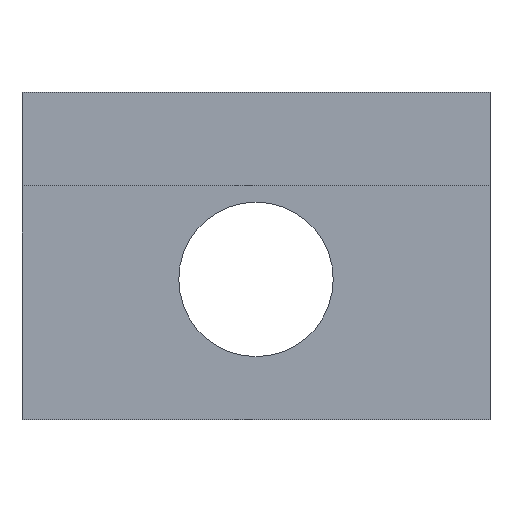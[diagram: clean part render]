
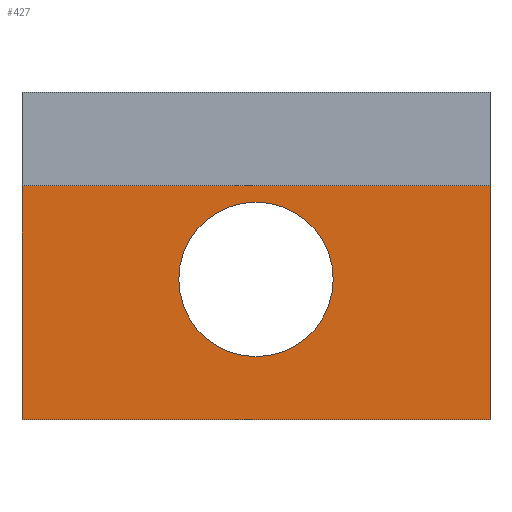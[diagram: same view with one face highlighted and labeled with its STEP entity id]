
A CAD part, front view. The second image highlights one B-rep face of the part: STEP entity #427.
In plain terms, the highlighted planar face has unit normal (0, -1, 0).
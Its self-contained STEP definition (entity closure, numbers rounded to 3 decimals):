
#32 = PLANE('',#33);
#33 = AXIS2_PLACEMENT_3D('',#34,#35,#36);
#34 = CARTESIAN_POINT('',(164.7,-137.883,-4.5));
#35 = DIRECTION('',(1.,0.,-0.));
#36 = DIRECTION('',(0.,0.,1.));
#85 = VERTEX_POINT('',#86);
#86 = CARTESIAN_POINT('',(164.7,-132.483,-4.5));
#100 = PLANE('',#101);
#101 = AXIS2_PLACEMENT_3D('',#102,#103,#104);
#102 = CARTESIAN_POINT('',(164.7,-137.883,-4.5));
#103 = DIRECTION('',(0.,0.,1.));
#104 = DIRECTION('',(1.,0.,-0.));
#112 = EDGE_CURVE('',#113,#85,#115,.T.);
#113 = VERTEX_POINT('',#114);
#114 = CARTESIAN_POINT('',(164.7,-132.483,-9.5));
#115 = SURFACE_CURVE('',#116,(#120,#127),.PCURVE_S1.);
#116 = LINE('',#117,#118);
#117 = CARTESIAN_POINT('',(164.7,-132.483,-9.5));
#118 = VECTOR('',#119,1.);
#119 = DIRECTION('',(0.,0.,1.));
#120 = PCURVE('',#32,#121);
#121 = DEFINITIONAL_REPRESENTATION('',(#122),#126);
#122 = LINE('',#123,#124);
#123 = CARTESIAN_POINT('',(-5.,-5.4));
#124 = VECTOR('',#125,1.);
#125 = DIRECTION('',(1.,0.));
#126 = ( GEOMETRIC_REPRESENTATION_CONTEXT(2) 
PARAMETRIC_REPRESENTATION_CONTEXT() REPRESENTATION_CONTEXT('2D SPACE',''
  ) );
#127 = PCURVE('',#128,#133);
#128 = PLANE('',#129);
#129 = AXIS2_PLACEMENT_3D('',#130,#131,#132);
#130 = CARTESIAN_POINT('',(164.7,-132.483,-9.5));
#131 = DIRECTION('',(-0.,1.,0.));
#132 = DIRECTION('',(0.,0.,1.));
#133 = DEFINITIONAL_REPRESENTATION('',(#134),#138);
#134 = LINE('',#135,#136);
#135 = CARTESIAN_POINT('',(0.,0.));
#136 = VECTOR('',#137,1.);
#137 = DIRECTION('',(1.,0.));
#138 = ( GEOMETRIC_REPRESENTATION_CONTEXT(2) 
PARAMETRIC_REPRESENTATION_CONTEXT() REPRESENTATION_CONTEXT('2D SPACE',''
  ) );
#156 = PLANE('',#157);
#157 = AXIS2_PLACEMENT_3D('',#158,#159,#160);
#158 = CARTESIAN_POINT('',(164.7,-132.483,-9.5));
#159 = DIRECTION('',(0.,0.,1.));
#160 = DIRECTION('',(1.,0.,-0.));
#237 = PLANE('',#238);
#238 = AXIS2_PLACEMENT_3D('',#239,#240,#241);
#239 = CARTESIAN_POINT('',(174.7,-137.883,-4.5));
#240 = DIRECTION('',(1.,0.,-0.));
#241 = DIRECTION('',(0.,0.,1.));
#356 = VERTEX_POINT('',#357);
#357 = CARTESIAN_POINT('',(174.7,-132.483,-4.5));
#378 = EDGE_CURVE('',#356,#85,#379,.T.);
#379 = SURFACE_CURVE('',#380,(#384,#390),.PCURVE_S1.);
#380 = LINE('',#381,#382);
#381 = CARTESIAN_POINT('',(164.7,-132.483,-4.5));
#382 = VECTOR('',#383,1.);
#383 = DIRECTION('',(-1.,-0.,0.));
#384 = PCURVE('',#100,#385);
#385 = DEFINITIONAL_REPRESENTATION('',(#386),#389);
#386 = B_SPLINE_CURVE_WITH_KNOTS('',1,(#387,#388),.UNSPECIFIED.,.F.,.F.,
  (2,2),(-10.,0.),.PIECEWISE_BEZIER_KNOTS.);
#387 = CARTESIAN_POINT('',(10.,5.4));
#388 = CARTESIAN_POINT('',(0.,5.4));
#389 = ( GEOMETRIC_REPRESENTATION_CONTEXT(2) 
PARAMETRIC_REPRESENTATION_CONTEXT() REPRESENTATION_CONTEXT('2D SPACE',''
  ) );
#390 = PCURVE('',#128,#391);
#391 = DEFINITIONAL_REPRESENTATION('',(#392),#395);
#392 = B_SPLINE_CURVE_WITH_KNOTS('',1,(#393,#394),.UNSPECIFIED.,.F.,.F.,
  (2,2),(-10.,0.),.PIECEWISE_BEZIER_KNOTS.);
#393 = CARTESIAN_POINT('',(5.,10.));
#394 = CARTESIAN_POINT('',(5.,0.));
#395 = ( GEOMETRIC_REPRESENTATION_CONTEXT(2) 
PARAMETRIC_REPRESENTATION_CONTEXT() REPRESENTATION_CONTEXT('2D SPACE',''
  ) );
#427 = ADVANCED_FACE('',(#428,#476),#128,.F.);
#428 = FACE_BOUND('',#429,.F.);
#429 = EDGE_LOOP('',(#430,#453,#474,#475));
#430 = ORIENTED_EDGE('',*,*,#431,.F.);
#431 = EDGE_CURVE('',#432,#356,#434,.T.);
#432 = VERTEX_POINT('',#433);
#433 = CARTESIAN_POINT('',(174.7,-132.483,-9.5));
#434 = SURFACE_CURVE('',#435,(#439,#446),.PCURVE_S1.);
#435 = LINE('',#436,#437);
#436 = CARTESIAN_POINT('',(174.7,-132.483,-9.5));
#437 = VECTOR('',#438,1.);
#438 = DIRECTION('',(0.,0.,1.));
#439 = PCURVE('',#128,#440);
#440 = DEFINITIONAL_REPRESENTATION('',(#441),#445);
#441 = LINE('',#442,#443);
#442 = CARTESIAN_POINT('',(0.,10.));
#443 = VECTOR('',#444,1.);
#444 = DIRECTION('',(1.,0.));
#445 = ( GEOMETRIC_REPRESENTATION_CONTEXT(2) 
PARAMETRIC_REPRESENTATION_CONTEXT() REPRESENTATION_CONTEXT('2D SPACE',''
  ) );
#446 = PCURVE('',#237,#447);
#447 = DEFINITIONAL_REPRESENTATION('',(#448),#452);
#448 = LINE('',#449,#450);
#449 = CARTESIAN_POINT('',(-5.,-5.4));
#450 = VECTOR('',#451,1.);
#451 = DIRECTION('',(1.,0.));
#452 = ( GEOMETRIC_REPRESENTATION_CONTEXT(2) 
PARAMETRIC_REPRESENTATION_CONTEXT() REPRESENTATION_CONTEXT('2D SPACE',''
  ) );
#453 = ORIENTED_EDGE('',*,*,#454,.F.);
#454 = EDGE_CURVE('',#113,#432,#455,.T.);
#455 = SURFACE_CURVE('',#456,(#460,#467),.PCURVE_S1.);
#456 = LINE('',#457,#458);
#457 = CARTESIAN_POINT('',(164.7,-132.483,-9.5));
#458 = VECTOR('',#459,1.);
#459 = DIRECTION('',(1.,0.,-0.));
#460 = PCURVE('',#128,#461);
#461 = DEFINITIONAL_REPRESENTATION('',(#462),#466);
#462 = LINE('',#463,#464);
#463 = CARTESIAN_POINT('',(0.,0.));
#464 = VECTOR('',#465,1.);
#465 = DIRECTION('',(0.,1.));
#466 = ( GEOMETRIC_REPRESENTATION_CONTEXT(2) 
PARAMETRIC_REPRESENTATION_CONTEXT() REPRESENTATION_CONTEXT('2D SPACE',''
  ) );
#467 = PCURVE('',#156,#468);
#468 = DEFINITIONAL_REPRESENTATION('',(#469),#473);
#469 = LINE('',#470,#471);
#470 = CARTESIAN_POINT('',(0.,0.));
#471 = VECTOR('',#472,1.);
#472 = DIRECTION('',(1.,0.));
#473 = ( GEOMETRIC_REPRESENTATION_CONTEXT(2) 
PARAMETRIC_REPRESENTATION_CONTEXT() REPRESENTATION_CONTEXT('2D SPACE',''
  ) );
#474 = ORIENTED_EDGE('',*,*,#112,.T.);
#475 = ORIENTED_EDGE('',*,*,#378,.F.);
#476 = FACE_BOUND('',#477,.F.);
#477 = EDGE_LOOP('',(#478));
#478 = ORIENTED_EDGE('',*,*,#479,.T.);
#479 = EDGE_CURVE('',#480,#480,#482,.T.);
#480 = VERTEX_POINT('',#481);
#481 = CARTESIAN_POINT('',(171.35,-132.483,-6.5));
#482 = SURFACE_CURVE('',#483,(#488,#499),.PCURVE_S1.);
#483 = CIRCLE('',#484,1.65);
#484 = AXIS2_PLACEMENT_3D('',#485,#486,#487);
#485 = CARTESIAN_POINT('',(169.7,-132.483,-6.5));
#486 = DIRECTION('',(0.,-1.,0.));
#487 = DIRECTION('',(1.,0.,0.));
#488 = PCURVE('',#128,#489);
#489 = DEFINITIONAL_REPRESENTATION('',(#490),#498);
#490 = ( BOUNDED_CURVE() B_SPLINE_CURVE(2,(#491,#492,#493,#494,#495,#496
,#497),.UNSPECIFIED.,.T.,.F.) B_SPLINE_CURVE_WITH_KNOTS((1,2,2,2,2,1),(
    -2.094,0.,2.094,4.189,6.283,
8.378),.UNSPECIFIED.) CURVE() GEOMETRIC_REPRESENTATION_ITEM() 
RATIONAL_B_SPLINE_CURVE((1.,0.5,1.,0.5,1.,0.5,1.)) REPRESENTATION_ITEM(
  '') );
#491 = CARTESIAN_POINT('',(3.,6.65));
#492 = CARTESIAN_POINT('',(5.858,6.65));
#493 = CARTESIAN_POINT('',(4.429,4.175));
#494 = CARTESIAN_POINT('',(3.,1.7));
#495 = CARTESIAN_POINT('',(1.571,4.175));
#496 = CARTESIAN_POINT('',(0.142,6.65));
#497 = CARTESIAN_POINT('',(3.,6.65));
#498 = ( GEOMETRIC_REPRESENTATION_CONTEXT(2) 
PARAMETRIC_REPRESENTATION_CONTEXT() REPRESENTATION_CONTEXT('2D SPACE',''
  ) );
#499 = PCURVE('',#500,#505);
#500 = CYLINDRICAL_SURFACE('',#501,1.65);
#501 = AXIS2_PLACEMENT_3D('',#502,#503,#504);
#502 = CARTESIAN_POINT('',(169.7,-45.883,-6.5));
#503 = DIRECTION('',(0.,-1.,0.));
#504 = DIRECTION('',(1.,0.,0.));
#505 = DEFINITIONAL_REPRESENTATION('',(#506),#510);
#506 = LINE('',#507,#508);
#507 = CARTESIAN_POINT('',(0.,86.6));
#508 = VECTOR('',#509,1.);
#509 = DIRECTION('',(1.,0.));
#510 = ( GEOMETRIC_REPRESENTATION_CONTEXT(2) 
PARAMETRIC_REPRESENTATION_CONTEXT() REPRESENTATION_CONTEXT('2D SPACE',''
  ) );
